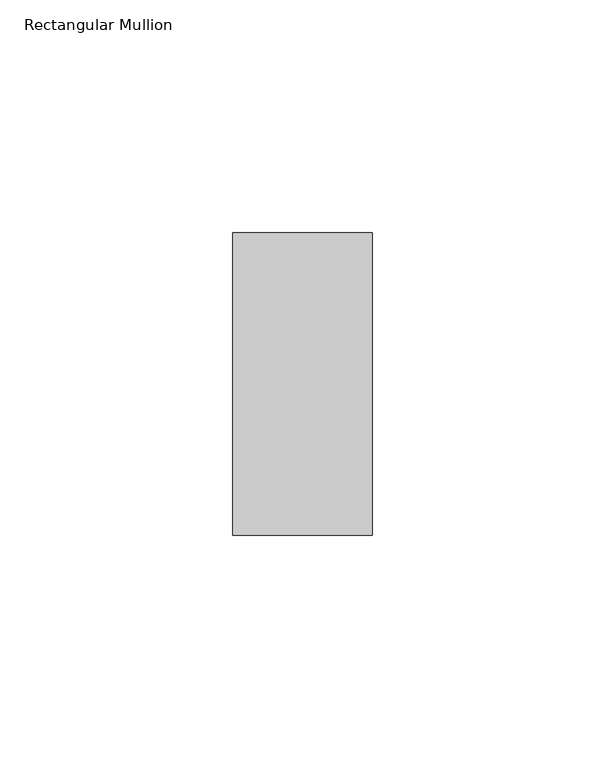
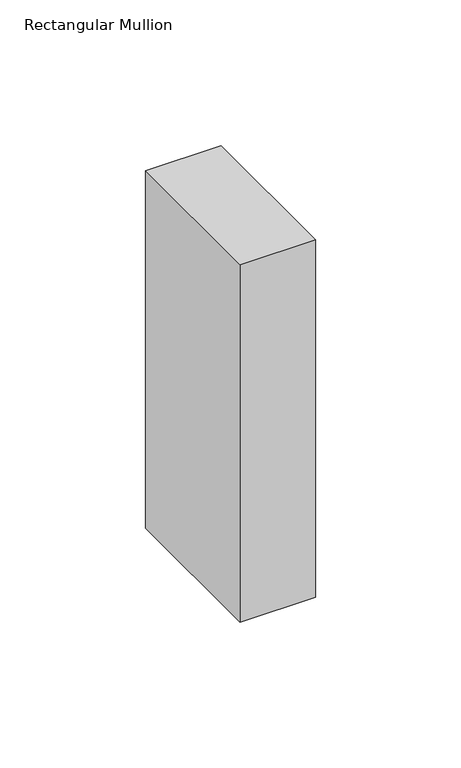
"""IFC4 building model written with IfcOpenShell, lengths in millimetres: member geometry, Rectangular Mullion : Batten_Timber_Modinex_Austratus_Grid_Fascia_30x65_AlaskanYellowCedar."""

import ifcopenshell
import ifcopenshell.guid

model = None  # the IFC model being written
_history = None  # IfcOwnerHistory: only IFC2X3 demands one
_inside = {}  # id of a spatial element -> (the spatial element, [elements in it])
_under = {}  # id of a project, library or spatial element -> (it, [spatial elements below it])
_declared = {}  # id of a project -> (the project, [libraries it declares])
_typed = {}  # id of a type object -> (the type object, [elements of that type])
_made_of = {}  # id of a material, layer set ... -> (it, [elements and type objects made of it])


def new_model(schema):
    """Start an empty IFC model of exactly this schema.

    Asked for "IFC4X3", IfcOpenShell would pick the latest addendum, in which some entities
    have other attributes; the version numbers below select the first issue.
    IFC2X3 requires an IfcOwnerHistory on every rooted entity: one is made here for all.
    """
    global model, _history
    if schema == "IFC4X3":
        model = ifcopenshell.file(schema_version=(4, 3, 0, 0))
    else:
        model = ifcopenshell.file(schema=schema)
    _inside.clear()
    _under.clear()
    _declared.clear()
    _typed.clear()
    _made_of.clear()
    _history = None
    if model.schema == "IFC2X3":
        org = make("IfcOrganization", Name="unknown")
        user = make(
            "IfcPersonAndOrganization",
            ThePerson=make("IfcPerson", FamilyName="unknown"),
            TheOrganization=org,
        )
        app = make(
            "IfcApplication",
            ApplicationDeveloper=org,
            Version="unknown",
            ApplicationFullName="unknown",
            ApplicationIdentifier="unknown",
        )
        _history = make(
            "IfcOwnerHistory",
            OwningUser=user,
            OwningApplication=app,
            ChangeAction="ADDED",
            CreationDate=0,
        )
    return model


def make(cls, **values):
    """One entity of the class cls with the attributes given. An attribute that is None is left unset."""
    return model.create_entity(
        cls, **{name: value for name, value in values.items() if value is not None}
    )


def rooted(cls, **values):
    """An entity with a GlobalId (a new one), such as an element, a storey or a relation."""
    return make(cls, GlobalId=ifcopenshell.guid.new(), OwnerHistory=_history, **values)


def si_unit(unit_type, name, prefix=None):
    """IfcSIUnit, for example si_unit("LENGTHUNIT", "METRE", prefix="MILLI")."""
    return make("IfcSIUnit", UnitType=unit_type, Prefix=prefix, Name=name)


def assignment(units):
    """IfcUnitAssignment: the units of a project."""
    return None if units is None else make("IfcUnitAssignment", Units=units)


def point(xyz):
    """IfcCartesianPoint."""
    return None if xyz is None else make("IfcCartesianPoint", Coordinates=xyz)


def direction(xyz):
    """IfcDirection."""
    return None if xyz is None else make("IfcDirection", DirectionRatios=xyz)


def frame(location, z_axis=None, x_axis=None):
    """IfcAxis2Placement3D, a coordinate frame: its origin and axes. An axis left out is left unset."""
    return make(
        "IfcAxis2Placement3D",
        Location=point(location),
        Axis=direction(z_axis),
        RefDirection=direction(x_axis),
    )


def origin():
    """The frame at (0, 0, 0) with its axes left unset."""
    return frame((0.0, 0.0, 0.0))


def place(relative_to, where):
    """IfcLocalPlacement: puts the frame where relative to a parent placement (None: the world)."""
    return make(
        "IfcLocalPlacement", PlacementRelTo=relative_to, RelativePlacement=where
    )


def context(
    kind, dimensions, precision=None, world=None, true_north=None, identifier=None
):
    """IfcGeometricRepresentationContext, for example the 3D "Model" context."""
    return make(
        "IfcGeometricRepresentationContext",
        ContextIdentifier=identifier,
        ContextType=kind,
        CoordinateSpaceDimension=dimensions,
        Precision=precision,
        WorldCoordinateSystem=world,
        TrueNorth=true_north,
    )


def project(units=None, contexts=None):
    """IfcProject with its units and contexts."""
    return rooted(
        "IfcProject",
        Name="project",
        RepresentationContexts=contexts,
        UnitsInContext=assignment(units),
    )


def spatial(cls, under=None, at=None, **own):
    """A site, building, storey or space (cls), placed at a placement, below another one or the project."""
    s = rooted(cls, ObjectPlacement=at, **own)
    if under is not None:
        _under.setdefault(under.id(), (under, []))[1].append(s)
    return s


def polyline(points):
    """IfcPolyline through the points."""
    return make("IfcPolyline", Points=[point(p) for p in points])


def outline(outer, holes=None, kind="AREA"):
    """IfcArbitraryClosedProfileDef: a profile drawn as a closed curve; with holes, ...WithVoids."""
    if holes is None:
        return make("IfcArbitraryClosedProfileDef", ProfileType=kind, OuterCurve=outer)
    return make(
        "IfcArbitraryProfileDefWithVoids",
        ProfileType=kind,
        OuterCurve=outer,
        InnerCurves=holes,
    )


def extrude(swept, where, along, depth):
    """IfcExtrudedAreaSolid: the profile swept, set in the frame where, extruded along a direction by depth."""
    return make(
        "IfcExtrudedAreaSolid",
        SweptArea=swept,
        Position=where,
        ExtrudedDirection=direction(along),
        Depth=depth,
    )


def shape(context_of_items, identifier, shape_type, items):
    """IfcShapeRepresentation: the items that make up one representation, for example the "Body"."""
    return make(
        "IfcShapeRepresentation",
        ContextOfItems=context_of_items,
        RepresentationIdentifier=identifier,
        RepresentationType=shape_type,
        Items=items,
    )


def source(mapping_origin, context_of_items, identifier, shape_type, items):
    """IfcRepresentationMap: a shape defined once, which mapped items show again and again."""
    return make(
        "IfcRepresentationMap",
        MappingOrigin=mapping_origin,
        MappedRepresentation=shape(context_of_items, identifier, shape_type, items),
    )


def transform(
    local_origin,
    x_axis=None,
    y_axis=None,
    z_axis=None,
    scale=None,
    scale2=None,
    scale3=None,
    uniform=True,
):
    """IfcCartesianTransformationOperator3D, or its non-uniform kind. x_axis, y_axis, z_axis: its Axis1, 2, 3."""
    if uniform:
        return make(
            "IfcCartesianTransformationOperator3D",
            Axis1=direction(x_axis),
            Axis2=direction(y_axis),
            LocalOrigin=point(local_origin),
            Scale=scale,
            Axis3=direction(z_axis),
        )
    return make(
        "IfcCartesianTransformationOperator3DnonUniform",
        Axis1=direction(x_axis),
        Axis2=direction(y_axis),
        LocalOrigin=point(local_origin),
        Scale=scale,
        Axis3=direction(z_axis),
        Scale2=scale2,
        Scale3=scale3,
    )


def mapped(mapping_source, mapping_target):
    """IfcMappedItem: shows the shape of a source again, moved by a transform."""
    return make(
        "IfcMappedItem", MappingSource=mapping_source, MappingTarget=mapping_target
    )


def made_of(thing, what):
    """Note that an element or type object is made of a material, layer set ...; save() writes the relation."""
    if what is not None:
        _made_of.setdefault(what.id(), (what, []))[1].append(thing)
    return thing


def element(
    cls,
    number,
    at=None,
    inside=None,
    cuts=None,
    type_object=None,
    material=None,
    context=None,
    identifier="Body",
    shape_type=None,
    held_by="IfcProductDefinitionShape",
    body=None,
    shapes=None,
    **own,
):
    """One element of the class cls, such as IfcWall. Its Tag is "e" and its number.

    at: its placement. inside: the storey or other place that contains it. cuts: it is an
    opening in that element (IfcRelVoidsElement). A single representation is given by context,
    identifier, shape_type and body (its items); several are given by shapes. held_by: the class
    of the entity that holds the representations. save() writes the other relations.
    """
    e = rooted(cls, Tag="e%d" % number, ObjectPlacement=at, **own)
    if body is not None:
        shapes = [shape(context, identifier, shape_type, body)]
    if shapes is not None:
        e.Representation = make(held_by, Representations=shapes)
    if inside is not None:
        _inside.setdefault(inside.id(), (inside, []))[1].append(e)
    if cuts is not None:
        rooted(
            "IfcRelVoidsElement", RelatingBuildingElement=cuts, RelatedOpeningElement=e
        )
    if type_object is not None:
        _typed.setdefault(type_object.id(), (type_object, []))[1].append(e)
    return made_of(e, material)


def aggregate(whole, parts):
    """IfcRelAggregates: a whole, such as a stair, and the parts it consists of."""
    return rooted("IfcRelAggregates", RelatingObject=whole, RelatedObjects=parts)


def save(model, path):
    """Write the relations noted so far, then the file.

    IfcRelAggregates (storeys below a building ...), IfcRelContainedInSpatialStructure (elements
    in a storey), IfcRelDefinesByType, IfcRelAssociatesMaterial and IfcRelDeclares: one each for
    every whole, place, type object, material and project.
    """
    for whole, parts in _under.values():
        aggregate(whole, parts)
    for where, things in _inside.values():
        rooted(
            "IfcRelContainedInSpatialStructure",
            RelatedElements=things,
            RelatingStructure=where,
        )
    for kind, things in _typed.values():
        rooted("IfcRelDefinesByType", RelatedObjects=things, RelatingType=kind)
    for what, things in _made_of.values():
        rooted("IfcRelAssociatesMaterial", RelatedObjects=things, RelatingMaterial=what)
    for by, libraries in _declared.values():
        rooted("IfcRelDeclares", RelatingContext=by, RelatedDefinitions=libraries)
    model.write(path)


def rectangular_mullion_ed01f2b6(model_context):
    return source(origin(), model_context, "Body", "SweptSolid", [
        extrude(outline(polyline([(0.0, 65.0), (0.0, 0.0), (-30.0, 0.0), (-30.0, 65.0), (0.0, 65.0)])), frame((0.0, 0.0, -150.0), z_axis=(0.0, 0.0, 1.0), x_axis=(1.0, 0.0, 0.0)), (0.0, 0.0, 1.0), 150.0),
    ])


if __name__ == "__main__":
    model = new_model("IFC4")
    model_context = context("Model", 3, world=origin())
    ifc_project = project(units=[si_unit("LENGTHUNIT", "METRE", prefix="MILLI")], contexts=[model_context])
    site = spatial("IfcSite", under=ifc_project)
    building = spatial("IfcBuilding", under=site)
    placement = place(None, origin())
    rectangular_mullion_shape = rectangular_mullion_ed01f2b6(model_context)
    element("IfcMember", 1, ObjectType="Rectangular Mullion : Batten_Timber_Modinex_Austratus_Grid_Fascia_30x65_AlaskanYellowCedar", at=placement, inside=building, context=model_context, shape_type="MappedRepresentation", body=[
        mapped(rectangular_mullion_shape, transform((0.0, 0.0, 0.0), x_axis=(1.0, 0.0, 0.0), y_axis=(0.0, 1.0, 0.0), z_axis=(0.0, 0.0, 1.0))),
    ])
    save(model, "model.ifc")
